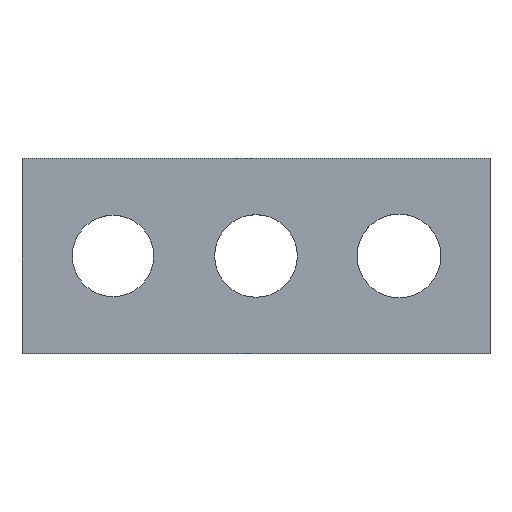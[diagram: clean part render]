
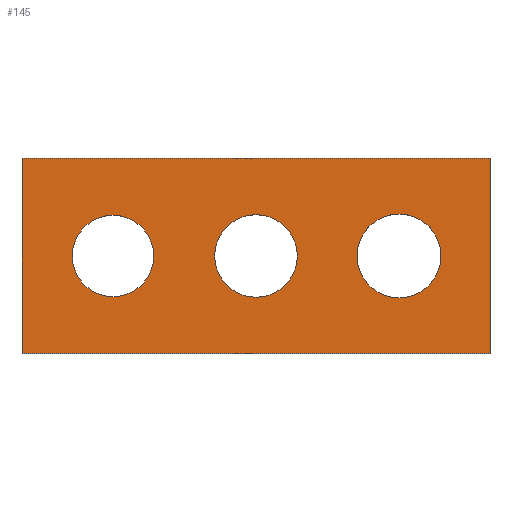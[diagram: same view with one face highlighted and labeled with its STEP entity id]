
A CAD part, top view. The second image highlights one B-rep face of the part: STEP entity #145.
In plain terms, the highlighted planar face has unit normal (0, 0, 1).
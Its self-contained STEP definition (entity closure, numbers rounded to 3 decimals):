
#32 = VERTEX_POINT('',#33);
#33 = CARTESIAN_POINT('',(0.,30.,3.2));
#39 = EDGE_CURVE('',#32,#40,#42,.T.);
#40 = VERTEX_POINT('',#41);
#41 = CARTESIAN_POINT('',(0.,0.,3.2));
#42 = LINE('',#43,#44);
#43 = CARTESIAN_POINT('',(0.,30.,3.2));
#44 = VECTOR('',#45,1.);
#45 = DIRECTION('',(0.,-1.,0.));
#128 = VERTEX_POINT('',#129);
#129 = CARTESIAN_POINT('',(72.,0.,3.2));
#135 = EDGE_CURVE('',#40,#128,#136,.T.);
#136 = LINE('',#137,#138);
#137 = CARTESIAN_POINT('',(0.,0.,3.2));
#138 = VECTOR('',#139,1.);
#139 = DIRECTION('',(1.,0.,0.));
#145 = ADVANCED_FACE('',(#146,#164,#175,#186),#197,.T.);
#146 = FACE_BOUND('',#147,.T.);
#147 = EDGE_LOOP('',(#148,#156,#157,#158));
#148 = ORIENTED_EDGE('',*,*,#149,.F.);
#149 = EDGE_CURVE('',#32,#150,#152,.T.);
#150 = VERTEX_POINT('',#151);
#151 = CARTESIAN_POINT('',(72.,30.,3.2));
#152 = LINE('',#153,#154);
#153 = CARTESIAN_POINT('',(0.,30.,3.2));
#154 = VECTOR('',#155,1.);
#155 = DIRECTION('',(1.,0.,0.));
#156 = ORIENTED_EDGE('',*,*,#39,.T.);
#157 = ORIENTED_EDGE('',*,*,#135,.T.);
#158 = ORIENTED_EDGE('',*,*,#159,.F.);
#159 = EDGE_CURVE('',#150,#128,#160,.T.);
#160 = LINE('',#161,#162);
#161 = CARTESIAN_POINT('',(72.,30.,3.2));
#162 = VECTOR('',#163,1.);
#163 = DIRECTION('',(0.,-1.,0.));
#164 = FACE_BOUND('',#165,.T.);
#165 = EDGE_LOOP('',(#166));
#166 = ORIENTED_EDGE('',*,*,#167,.F.);
#167 = EDGE_CURVE('',#168,#168,#170,.T.);
#168 = VERTEX_POINT('',#169);
#169 = CARTESIAN_POINT('',(14.,8.75,3.2));
#170 = CIRCLE('',#171,6.25);
#171 = AXIS2_PLACEMENT_3D('',#172,#173,#174);
#172 = CARTESIAN_POINT('',(14.,15.,3.2));
#173 = DIRECTION('',(0.,0.,1.));
#174 = DIRECTION('',(0.,-1.,0.));
#175 = FACE_BOUND('',#176,.T.);
#176 = EDGE_LOOP('',(#177));
#177 = ORIENTED_EDGE('',*,*,#178,.F.);
#178 = EDGE_CURVE('',#179,#179,#181,.T.);
#179 = VERTEX_POINT('',#180);
#180 = CARTESIAN_POINT('',(36.,8.65,3.2));
#181 = CIRCLE('',#182,6.35);
#182 = AXIS2_PLACEMENT_3D('',#183,#184,#185);
#183 = CARTESIAN_POINT('',(36.,15.,3.2));
#184 = DIRECTION('',(0.,0.,1.));
#185 = DIRECTION('',(0.,-1.,0.));
#186 = FACE_BOUND('',#187,.T.);
#187 = EDGE_LOOP('',(#188));
#188 = ORIENTED_EDGE('',*,*,#189,.F.);
#189 = EDGE_CURVE('',#190,#190,#192,.T.);
#190 = VERTEX_POINT('',#191);
#191 = CARTESIAN_POINT('',(58.,8.55,3.2));
#192 = CIRCLE('',#193,6.45);
#193 = AXIS2_PLACEMENT_3D('',#194,#195,#196);
#194 = CARTESIAN_POINT('',(58.,15.,3.2));
#195 = DIRECTION('',(0.,0.,1.));
#196 = DIRECTION('',(0.,-1.,0.));
#197 = PLANE('',#198);
#198 = AXIS2_PLACEMENT_3D('',#199,#200,#201);
#199 = CARTESIAN_POINT('',(0.,30.,3.2));
#200 = DIRECTION('',(0.,0.,1.));
#201 = DIRECTION('',(0.,-1.,0.));
